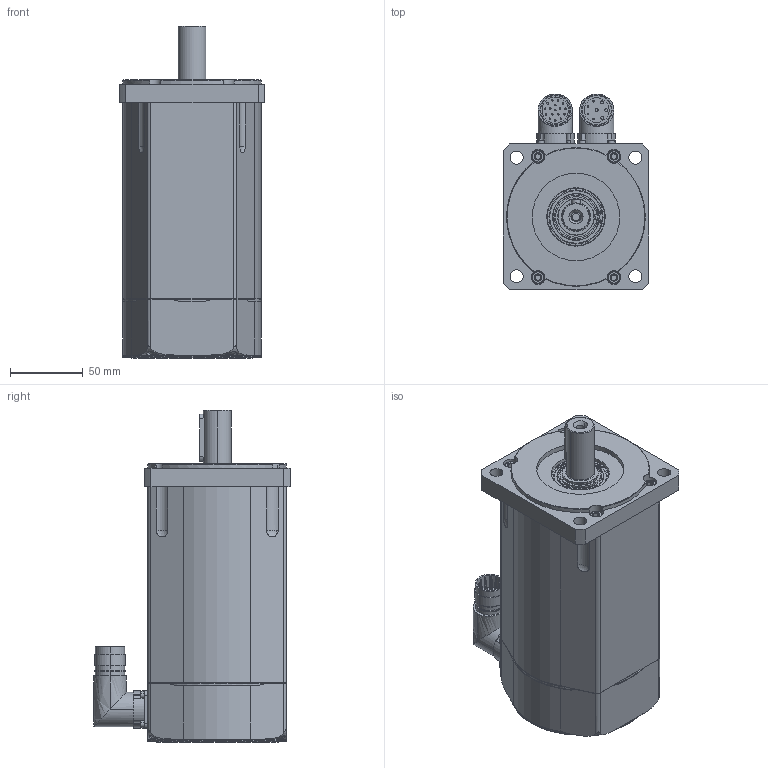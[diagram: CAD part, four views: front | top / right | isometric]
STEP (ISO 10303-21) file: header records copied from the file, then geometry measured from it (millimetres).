
FILE_DESCRIPTION (( 'STEP AP203' ), '1' );
FILE_NAME ('SSAX100S_SF.STEP', '2015-09-10T15:00:00', ( 'Tecnico motori' ), ( '' ), 'SwSTEP 2.0', 'SolidWorks 2010', '' );
FILE_SCHEMA (( 'CONFIG_CONTROL_DESIGN' ));
Length unit declared in the file: millimetre
Products named in the file (1): SSAX100S_SF
Bounding box: 100 x 134.5 x 227.5 mm (x, y, z)
Surface area: 108504.2 mm2 (no closed solid volume)
Topology: 0 solids, 35 shells, 471 faces, 1315 edges, 910 vertices
Faces by surface type: cylinder 203, plane 190, cone 42, torus 30, bspline 6
Entity records: 16770 total; most frequent: CARTESIAN_POINT 4334, DIRECTION 2754, ORIENTED_EDGE 2283, EDGE_CURVE 1315, AXIS2_PLACEMENT_3D 1090, VERTEX_POINT 910, CIRCLE 624, EDGE_LOOP 576
